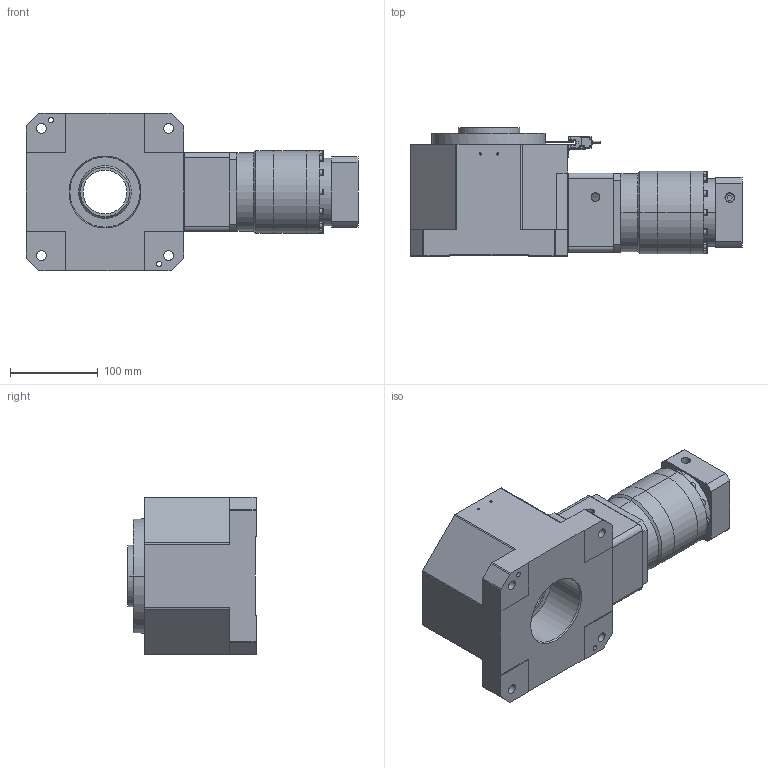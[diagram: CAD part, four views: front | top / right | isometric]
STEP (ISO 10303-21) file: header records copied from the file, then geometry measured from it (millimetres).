
FILE_DESCRIPTION((''),'2;1');
FILE_NAME('ZCM180_ASM','2021-01-07T17:10:53',('Administrator'),(''),'CREO PARAMETRIC BY PTC INC, 2017260','CREO PARAMETRIC BY PTC INC, 2017260','');
FILE_SCHEMA(('CONFIG_CONTROL_DESIGN','SHAPE_APPEARANCE_LAYERS_GROUPS'));
Length unit declared in the file: millimetre
Products named in the file (19): LOOP_ZCM180; _2497_10; _10; _4398_10; _100; ST-303_1_2_ASM; HOLDER_ZCH150; ROCKER_ZCM180; SENSOR_ZCM180_ASM; BEARING-SEAT_ZCM180; WASHER_ZCM180; HU_GEAR_ZCM180_ASM; _000; VRB90-L2_750W__19-0001_ASM; BASE-SOLID_ZCM180; ZCM180_ASM
Assembly tree (18 placements, depth 4):
  ZCM180_ASM
    LOOP_ZCM180
    SENSOR_ZCM180_ASM
      ST-303_1_2_ASM
        _2497_10
        _10
        _4398_10
        _100
      HOLDER_ZCH150
      ROCKER_ZCM180
    HU_GEAR_ZCM180_ASM
      BEARING-SEAT_ZCM180
      WASHER_ZCM180
    VRB90-L2_750W__19-0001_ASM
      _000
      _000
      _000
      _000
    BASE-SOLID_ZCM180
Bounding box: 378.4 x 146 x 180 mm (x, y, z)
Volume: 4316504.8 mm3; surface area: 388337.3 mm2
Topology: 14 solids, 14 shells, 1039 faces, 2624 edges, 1649 vertices
Faces by surface type: plane 489, cylinder 426, cone 84, torus 32, sphere 8
Entity records: 35302 total; most frequent: CARTESIAN_POINT 5737, DIRECTION 5585, ORIENTED_EDGE 5092, EDGE_CURVE 2546, AXIS2_PLACEMENT_3D 2010, VERTEX_POINT 1649, VECTOR 1565, LINE 1565
